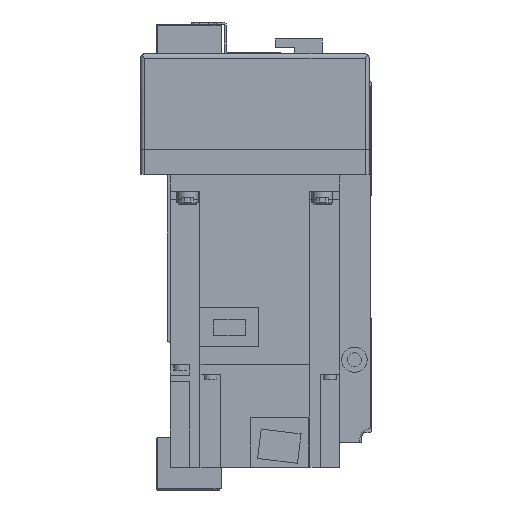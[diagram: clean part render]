
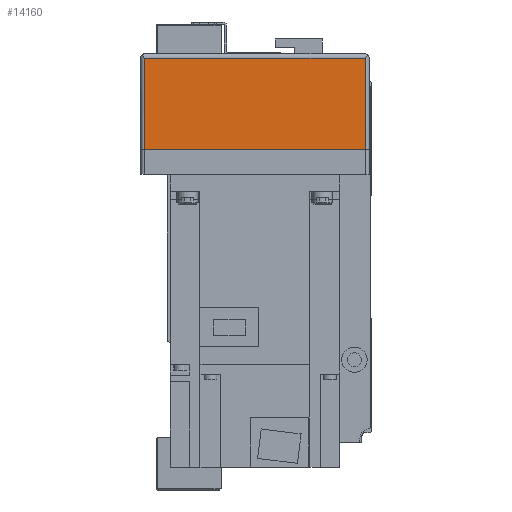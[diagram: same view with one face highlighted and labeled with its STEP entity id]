
A CAD part, left-side view. The second image highlights one B-rep face of the part: STEP entity #14160.
In plain terms, the highlighted planar face has unit normal (-1, 0, 0).
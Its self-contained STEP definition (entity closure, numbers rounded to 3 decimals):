
#2548=ORIENTED_EDGE('',*,*,#5866,.T.);
#2549=ORIENTED_EDGE('',*,*,#5794,.T.);
#2550=ORIENTED_EDGE('',*,*,#5867,.F.);
#2551=ORIENTED_EDGE('',*,*,#5806,.F.);
#5794=EDGE_CURVE('',#7602,#7605,#9088,.T.);
#5806=EDGE_CURVE('',#7612,#7614,#9093,.T.);
#5866=EDGE_CURVE('',#7612,#7602,#9135,.T.);
#5867=EDGE_CURVE('',#7614,#7605,#9136,.T.);
#7602=VERTEX_POINT('',#22181);
#7605=VERTEX_POINT('',#22187);
#7612=VERTEX_POINT('',#22210);
#7614=VERTEX_POINT('',#22213);
#9088=LINE('',#22188,#10401);
#9093=LINE('',#22212,#10406);
#9135=LINE('',#22336,#10448);
#9136=LINE('',#22337,#10449);
#10401=VECTOR('',#17701,1000.);
#10406=VECTOR('',#17728,1000.);
#10448=VECTOR('',#17848,1000.);
#10449=VECTOR('',#17849,1000.);
#11557=EDGE_LOOP('',(#2548,#2549,#2550,#2551));
#12644=FACE_BOUND('',#11557,.T.);
#13563=PLANE('',#15223);
#14160=ADVANCED_FACE('',(#12644),#13563,.T.);
#15223=AXIS2_PLACEMENT_3D('',#22335,#17846,#17847);
#17701=DIRECTION('',(0.,0.,1.));
#17728=DIRECTION('',(0.,0.,1.));
#17846=DIRECTION('',(-1.,0.,0.));
#17847=DIRECTION('',(0.,0.,1.));
#17848=DIRECTION('',(0.,-1.,0.));
#17849=DIRECTION('',(0.,-1.,0.));
#22181=CARTESIAN_POINT('',(-230.,-52.,-55.));
#22187=CARTESIAN_POINT('',(-230.,-52.,-12.));
#22188=CARTESIAN_POINT('',(-230.,-52.,-57.));
#22210=CARTESIAN_POINT('',(-230.,52.,-55.));
#22212=CARTESIAN_POINT('',(-230.,52.,-57.));
#22213=CARTESIAN_POINT('',(-230.,52.,-12.));
#22335=CARTESIAN_POINT('',(-230.,52.,-57.));
#22336=CARTESIAN_POINT('',(-230.,54.,-55.));
#22337=CARTESIAN_POINT('',(-230.,52.,-12.));
